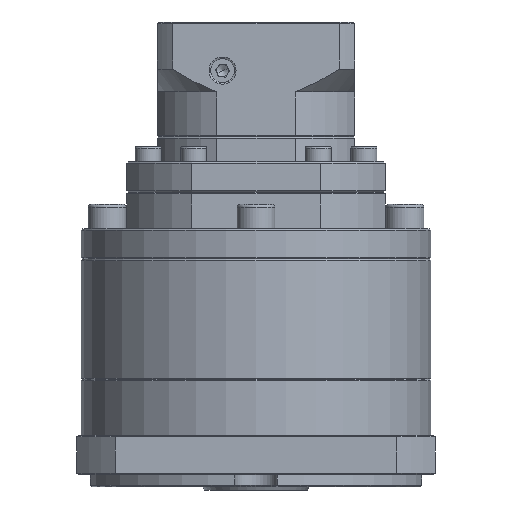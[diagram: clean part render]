
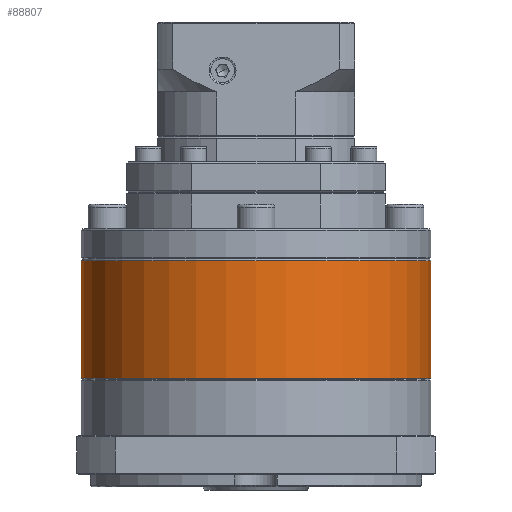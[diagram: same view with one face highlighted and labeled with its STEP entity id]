
A CAD part, front view. The second image highlights one B-rep face of the part: STEP entity #88807.
In plain terms, the highlighted cylindrical face has radius 57.5 mm (diameter 115 mm), a partial arc.
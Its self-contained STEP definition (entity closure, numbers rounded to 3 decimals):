
#1958 = LINE ( 'NONE', #115626, #126137 ) ;
#9626 = LINE ( 'NONE', #31519, #55357 ) ;
#10091 = VERTEX_POINT ( 'NONE', #46186 ) ;
#11313 = DIRECTION ( 'NONE',  ( 0., 0., 1. ) ) ;
#24215 = AXIS2_PLACEMENT_3D ( 'NONE', #72563, #101035, #61169 ) ;
#26404 = CARTESIAN_POINT ( 'NONE',  ( 24.129, 125.006, -69.306 ) ) ;
#28662 = CARTESIAN_POINT ( 'NONE',  ( 139.129, 125.006, -69.306 ) ) ;
#30423 = CARTESIAN_POINT ( 'NONE',  ( 81.629, 125.006, -69.306 ) ) ;
#30513 = CIRCLE ( 'NONE', #39620, 57.5 ) ;
#31519 = CARTESIAN_POINT ( 'NONE',  ( 139.129, 125.006, -68.806 ) ) ;
#31706 = CIRCLE ( 'NONE', #129912, 57.5 ) ;
#32020 = CARTESIAN_POINT ( 'NONE',  ( 24.129, 125.006, -108.018 ) ) ;
#32708 = ORIENTED_EDGE ( 'NONE', *, *, #61352, .F. ) ;
#34046 = VERTEX_POINT ( 'NONE', #32020 ) ;
#39620 = AXIS2_PLACEMENT_3D ( 'NONE', #92496, #11313, #81617 ) ;
#40806 = ORIENTED_EDGE ( 'NONE', *, *, #113273, .T. ) ;
#43034 = ORIENTED_EDGE ( 'NONE', *, *, #80710, .T. ) ;
#43791 = EDGE_CURVE ( 'NONE', #34046, #10091, #30513, .T. ) ;
#46186 = CARTESIAN_POINT ( 'NONE',  ( 139.129, 125.006, -108.018 ) ) ;
#47586 = CYLINDRICAL_SURFACE ( 'NONE', #24215, 57.5 ) ;
#55357 = VECTOR ( 'NONE', #121118, 1000. ) ;
#61169 = DIRECTION ( 'NONE',  ( -1., 0., 0. ) ) ;
#61253 = DIRECTION ( 'NONE',  ( -1., 0., 0. ) ) ;
#61352 = EDGE_CURVE ( 'NONE', #84198, #10091, #9626, .T. ) ;
#72563 = CARTESIAN_POINT ( 'NONE',  ( 81.629, 125.006, -68.806 ) ) ;
#80710 = EDGE_CURVE ( 'NONE', #84198, #120608, #31706, .T. ) ;
#81617 = DIRECTION ( 'NONE',  ( -1., 0., 0. ) ) ;
#84198 = VERTEX_POINT ( 'NONE', #28662 ) ;
#88807 = ADVANCED_FACE ( 'NONE', ( #118286 ), #47586, .T. ) ;
#92496 = CARTESIAN_POINT ( 'NONE',  ( 81.629, 125.006, -108.018 ) ) ;
#101035 = DIRECTION ( 'NONE',  ( 0., 0., -1. ) ) ;
#101549 = DIRECTION ( 'NONE',  ( 0., 0., -1. ) ) ;
#101609 = ORIENTED_EDGE ( 'NONE', *, *, #43791, .T. ) ;
#113273 = EDGE_CURVE ( 'NONE', #120608, #34046, #1958, .T. ) ;
#115626 = CARTESIAN_POINT ( 'NONE',  ( 24.129, 125.006, -68.806 ) ) ;
#118286 = FACE_OUTER_BOUND ( 'NONE', #120564, .T. ) ;
#120564 = EDGE_LOOP ( 'NONE', ( #32708, #43034, #40806, #101609 ) ) ;
#120608 = VERTEX_POINT ( 'NONE', #26404 ) ;
#121118 = DIRECTION ( 'NONE',  ( 0., 0., -1. ) ) ;
#125718 = DIRECTION ( 'NONE',  ( 0., 0., -1. ) ) ;
#126137 = VECTOR ( 'NONE', #125718, 1000. ) ;
#129912 = AXIS2_PLACEMENT_3D ( 'NONE', #30423, #101549, #61253 ) ;
